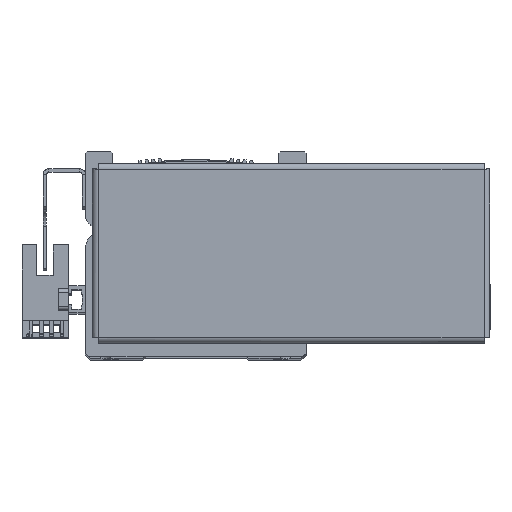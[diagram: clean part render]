
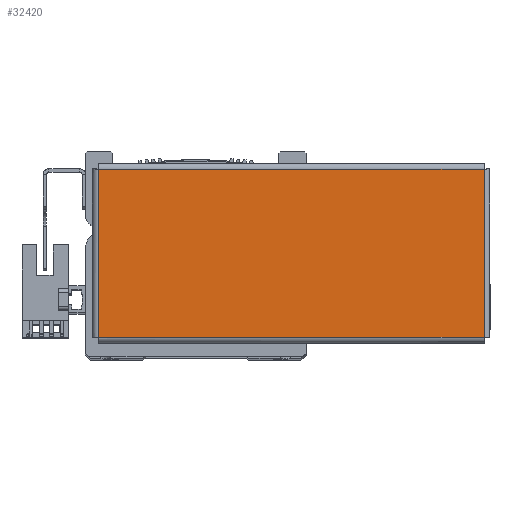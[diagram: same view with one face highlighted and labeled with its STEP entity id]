
A CAD part, top view. The second image highlights one B-rep face of the part: STEP entity #32420.
In plain terms, the highlighted planar face has unit normal (0, 0, 1) as drawn and (0, 0, -1) by its records, which use the part's own axes.
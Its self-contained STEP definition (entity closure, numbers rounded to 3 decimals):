
#707 = ORIENTED_EDGE ( 'NONE', *, *, #16043, .T. ) ;
#741 = ORIENTED_EDGE ( 'NONE', *, *, #15963, .T. ) ;
#757 = ORIENTED_EDGE ( 'NONE', *, *, #16010, .T. ) ;
#787 = ORIENTED_EDGE ( 'NONE', *, *, #15987, .T. ) ;
#10632 = VERTEX_POINT ( 'NONE', #12742 ) ;
#11782 = VERTEX_POINT ( 'NONE', #23817 ) ;
#11790 = VERTEX_POINT ( 'NONE', #23807 ) ;
#11811 = VERTEX_POINT ( 'NONE', #23785 ) ;
#12742 = CARTESIAN_POINT ( 'NONE',  ( -56.863, -24.763, -1. ) ) ;
#13071 = EDGE_LOOP ( 'NONE', ( #741, #707, #757, #787 ) ) ;
#15963 = EDGE_CURVE ( 'NONE', #11782, #11790, #39255, .T. ) ;
#15987 = EDGE_CURVE ( 'NONE', #11811, #11782, #39235, .T. ) ;
#16010 = EDGE_CURVE ( 'NONE', #10632, #11811, #39339, .T. ) ;
#16043 = EDGE_CURVE ( 'NONE', #11790, #10632, #39293, .T. ) ;
#23785 = CARTESIAN_POINT ( 'NONE',  ( -56.863, 24.763, -1. ) ) ;
#23807 = CARTESIAN_POINT ( 'NONE',  ( 56.863, -24.763, -1. ) ) ;
#23817 = CARTESIAN_POINT ( 'NONE',  ( 56.863, 24.763, -1. ) ) ;
#28212 = PLANE ( 'NONE',  #30189 ) ;
#28219 = CARTESIAN_POINT ( 'NONE',  ( 0., 0., -1. ) ) ;
#28232 = DIRECTION ( 'NONE',  ( 1., 0., 0. ) ) ;
#28242 = DIRECTION ( 'NONE',  ( 0., 0., 1. ) ) ;
#30189 = AXIS2_PLACEMENT_3D ( 'NONE', #28219, #28242, #28232 ) ;
#32420 = ADVANCED_FACE ( 'NONE', ( #37974 ), #28212, .F. ) ;
#34149 = DIRECTION ( 'NONE',  ( 0., -1., 0. ) ) ;
#34170 = CARTESIAN_POINT ( 'NONE',  ( 56.863, 24.793, -1. ) ) ;
#34203 = DIRECTION ( 'NONE',  ( 1., 0., 0. ) ) ;
#34226 = CARTESIAN_POINT ( 'NONE',  ( -56.893, 24.763, -1. ) ) ;
#34244 = CARTESIAN_POINT ( 'NONE',  ( -56.863, -24.793, -1. ) ) ;
#34255 = DIRECTION ( 'NONE',  ( 0., 1., 0. ) ) ;
#34303 = CARTESIAN_POINT ( 'NONE',  ( 56.893, -24.763, -1. ) ) ;
#34315 = DIRECTION ( 'NONE',  ( -1., 0., 0. ) ) ;
#37974 = FACE_OUTER_BOUND ( 'NONE', #13071, .T. ) ;
#39235 = LINE ( 'NONE', #34226, #39250 ) ;
#39250 = VECTOR ( 'NONE', #34203, 1000. ) ;
#39255 = LINE ( 'NONE', #34170, #39275 ) ;
#39275 = VECTOR ( 'NONE', #34149, 1000. ) ;
#39293 = LINE ( 'NONE', #34303, #39314 ) ;
#39308 = VECTOR ( 'NONE', #34255, 1000. ) ;
#39314 = VECTOR ( 'NONE', #34315, 1000. ) ;
#39339 = LINE ( 'NONE', #34244, #39308 ) ;
